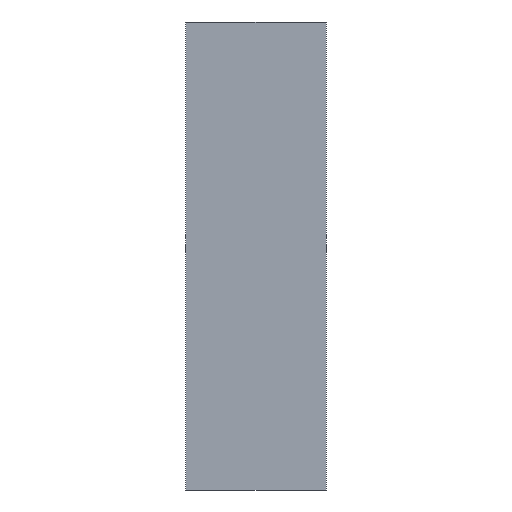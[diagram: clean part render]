
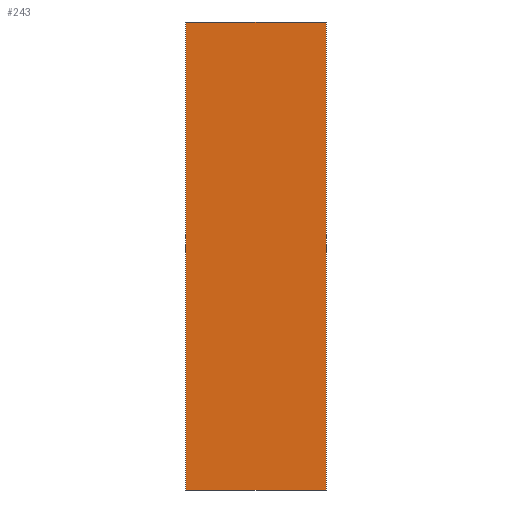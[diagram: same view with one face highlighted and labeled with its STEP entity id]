
A CAD part, front view. The second image highlights one B-rep face of the part: STEP entity #243.
In plain terms, the highlighted planar face has unit normal (0, -1, 0).
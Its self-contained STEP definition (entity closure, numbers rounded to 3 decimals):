
#57=FACE_OUTER_BOUND('',#71,.T.);
#71=EDGE_LOOP('',(#173,#174,#175,#176));
#89=LINE('',#471,#105);
#90=LINE('',#473,#106);
#91=LINE('',#475,#107);
#92=LINE('',#476,#108);
#105=VECTOR('',#386,10.);
#106=VECTOR('',#387,10.);
#107=VECTOR('',#388,10.);
#108=VECTOR('',#389,10.);
#121=VERTEX_POINT('',#469);
#122=VERTEX_POINT('',#470);
#123=VERTEX_POINT('',#472);
#124=VERTEX_POINT('',#474);
#143=EDGE_CURVE('',#121,#122,#89,.T.);
#144=EDGE_CURVE('',#122,#123,#90,.T.);
#145=EDGE_CURVE('',#123,#124,#91,.T.);
#146=EDGE_CURVE('',#124,#121,#92,.T.);
#173=ORIENTED_EDGE('',*,*,#143,.T.);
#174=ORIENTED_EDGE('',*,*,#144,.T.);
#175=ORIENTED_EDGE('',*,*,#145,.T.);
#176=ORIENTED_EDGE('',*,*,#146,.T.);
#233=PLANE('',#347);
#243=ADVANCED_FACE('',(#57),#233,.T.);
#347=AXIS2_PLACEMENT_3D('',#468,#384,#385);
#384=DIRECTION('center_axis',(0.,-1.,0.));
#385=DIRECTION('ref_axis',(0.,0.,-1.));
#386=DIRECTION('',(-1.,0.,0.));
#387=DIRECTION('',(0.,0.,-1.));
#388=DIRECTION('',(1.,0.,0.));
#389=DIRECTION('',(0.,0.,1.));
#468=CARTESIAN_POINT('Origin',(0.,-2.5,0.));
#469=CARTESIAN_POINT('',(30.,-2.5,100.));
#470=CARTESIAN_POINT('',(-30.,-2.5,100.));
#471=CARTESIAN_POINT('',(-30.,-2.5,100.));
#472=CARTESIAN_POINT('',(-30.,-2.5,-100.));
#473=CARTESIAN_POINT('',(-30.,-2.5,-100.));
#474=CARTESIAN_POINT('',(30.,-2.5,-100.));
#475=CARTESIAN_POINT('',(30.,-2.5,-100.));
#476=CARTESIAN_POINT('',(30.,-2.5,100.));
